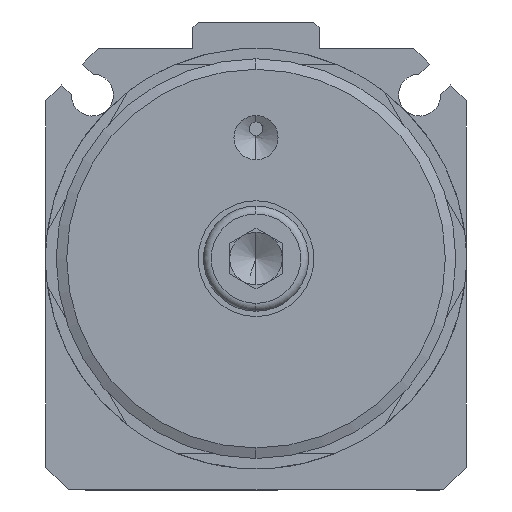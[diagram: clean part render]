
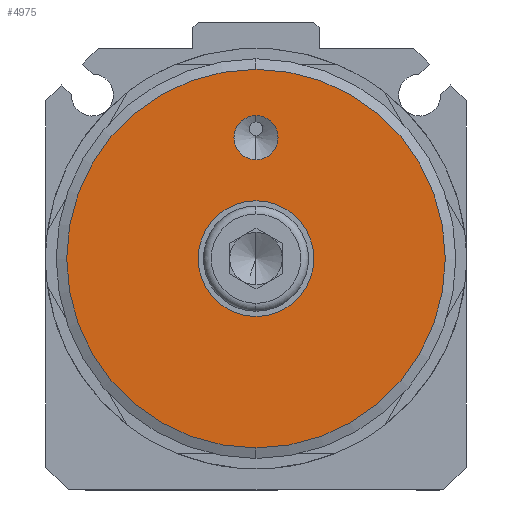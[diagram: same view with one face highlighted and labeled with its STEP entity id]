
A CAD part, front view. The second image highlights one B-rep face of the part: STEP entity #4975.
In plain terms, the highlighted planar face has unit normal (0, -1, 0).
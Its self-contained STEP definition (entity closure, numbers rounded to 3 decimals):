
#12 = CARTESIAN_POINT ( 'NONE',  ( 0., -26., 0. ) ) ;
#494 = VERTEX_POINT ( 'NONE', #4886 ) ;
#593 = DIRECTION ( 'NONE',  ( 0., -1., 0. ) ) ;
#595 = AXIS2_PLACEMENT_3D ( 'NONE', #5465, #593, #10263 ) ;
#669 = ORIENTED_EDGE ( 'NONE', *, *, #6872, .T. ) ;
#727 = ORIENTED_EDGE ( 'NONE', *, *, #2671, .F. ) ;
#879 = ORIENTED_EDGE ( 'NONE', *, *, #5701, .F. ) ;
#1017 = AXIS2_PLACEMENT_3D ( 'NONE', #6097, #6764, #6862 ) ;
#1055 = CIRCLE ( 'NONE', #1961, 2.1 ) ;
#1065 = EDGE_LOOP ( 'NONE', ( #727, #6522 ) ) ;
#1223 = CARTESIAN_POINT ( 'NONE',  ( 0., -26., -5.5 ) ) ;
#1227 = CIRCLE ( 'NONE', #8491, 5.5 ) ;
#1396 = CARTESIAN_POINT ( 'NONE',  ( 0., -26., 0. ) ) ;
#1517 = FACE_BOUND ( 'NONE', #7456, .T. ) ;
#1961 = AXIS2_PLACEMENT_3D ( 'NONE', #5252, #6044, #5313 ) ;
#2041 = FACE_BOUND ( 'NONE', #1065, .T. ) ;
#2103 = AXIS2_PLACEMENT_3D ( 'NONE', #6288, #8806, #2306 ) ;
#2233 = DIRECTION ( 'NONE',  ( 0., 0., 1. ) ) ;
#2306 = DIRECTION ( 'NONE',  ( 0., 0., 1. ) ) ;
#2554 = ORIENTED_EDGE ( 'NONE', *, *, #5436, .T. ) ;
#2671 = EDGE_CURVE ( 'NONE', #8206, #7532, #3358, .T. ) ;
#3131 = DIRECTION ( 'NONE',  ( 0., -1., 0. ) ) ;
#3214 = CARTESIAN_POINT ( 'NONE',  ( 0., -26., 13.6 ) ) ;
#3358 = CIRCLE ( 'NONE', #2103, 2.1 ) ;
#3455 = EDGE_LOOP ( 'NONE', ( #2554, #669 ) ) ;
#3499 = EDGE_CURVE ( 'NONE', #7532, #8206, #1055, .T. ) ;
#4691 = CARTESIAN_POINT ( 'NONE',  ( 0., -26., 5.5 ) ) ;
#4728 = CARTESIAN_POINT ( 'NONE',  ( 0., -26., -18. ) ) ;
#4760 = VERTEX_POINT ( 'NONE', #1223 ) ;
#4886 = CARTESIAN_POINT ( 'NONE',  ( 0., -26., 18. ) ) ;
#4975 = ADVANCED_FACE ( 'NONE', ( #6578, #1517, #2041 ), #7113, .T. ) ;
#5252 = CARTESIAN_POINT ( 'NONE',  ( 0., -26., 11.5 ) ) ;
#5313 = DIRECTION ( 'NONE',  ( 0., 0., 1. ) ) ;
#5436 = EDGE_CURVE ( 'NONE', #5834, #494, #5576, .T. ) ;
#5465 = CARTESIAN_POINT ( 'NONE',  ( 0., -26., 18. ) ) ;
#5576 = CIRCLE ( 'NONE', #8910, 18. ) ;
#5701 = EDGE_CURVE ( 'NONE', #4760, #10364, #10407, .T. ) ;
#5834 = VERTEX_POINT ( 'NONE', #4728 ) ;
#5941 = EDGE_CURVE ( 'NONE', #10364, #4760, #1227, .T. ) ;
#6044 = DIRECTION ( 'NONE',  ( 0., -1., 0. ) ) ;
#6097 = CARTESIAN_POINT ( 'NONE',  ( 0., -26., 0. ) ) ;
#6261 = CIRCLE ( 'NONE', #1017, 18. ) ;
#6288 = CARTESIAN_POINT ( 'NONE',  ( 0., -26., 11.5 ) ) ;
#6295 = DIRECTION ( 'NONE',  ( 0., 0., 1. ) ) ;
#6522 = ORIENTED_EDGE ( 'NONE', *, *, #3499, .F. ) ;
#6578 = FACE_OUTER_BOUND ( 'NONE', #3455, .T. ) ;
#6764 = DIRECTION ( 'NONE',  ( 0., -1., 0. ) ) ;
#6862 = DIRECTION ( 'NONE',  ( 0., 0., 1. ) ) ;
#6872 = EDGE_CURVE ( 'NONE', #494, #5834, #6261, .T. ) ;
#7113 = PLANE ( 'NONE',  #595 ) ;
#7421 = AXIS2_PLACEMENT_3D ( 'NONE', #12, #8902, #9712 ) ;
#7456 = EDGE_LOOP ( 'NONE', ( #8681, #879 ) ) ;
#7532 = VERTEX_POINT ( 'NONE', #9198 ) ;
#7893 = DIRECTION ( 'NONE',  ( 0., -1., 0. ) ) ;
#8206 = VERTEX_POINT ( 'NONE', #3214 ) ;
#8491 = AXIS2_PLACEMENT_3D ( 'NONE', #10302, #3131, #2233 ) ;
#8681 = ORIENTED_EDGE ( 'NONE', *, *, #5941, .F. ) ;
#8806 = DIRECTION ( 'NONE',  ( 0., -1., 0. ) ) ;
#8902 = DIRECTION ( 'NONE',  ( 0., -1., 0. ) ) ;
#8910 = AXIS2_PLACEMENT_3D ( 'NONE', #1396, #7893, #6295 ) ;
#9198 = CARTESIAN_POINT ( 'NONE',  ( 0., -26., 9.4 ) ) ;
#9712 = DIRECTION ( 'NONE',  ( 0., 0., 1. ) ) ;
#10263 = DIRECTION ( 'NONE',  ( 0., 0., 1. ) ) ;
#10302 = CARTESIAN_POINT ( 'NONE',  ( 0., -26., 0. ) ) ;
#10364 = VERTEX_POINT ( 'NONE', #4691 ) ;
#10407 = CIRCLE ( 'NONE', #7421, 5.5 ) ;
